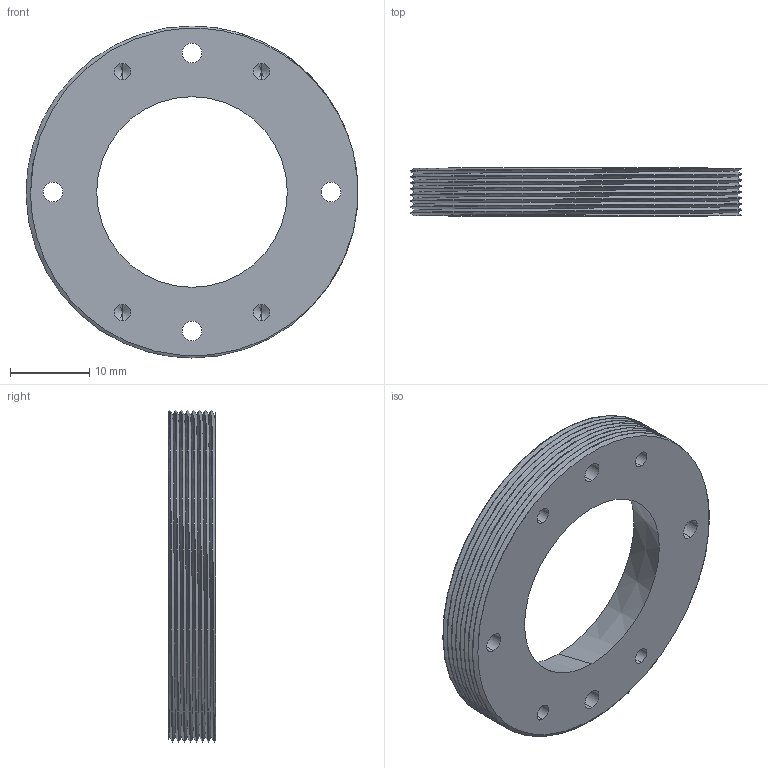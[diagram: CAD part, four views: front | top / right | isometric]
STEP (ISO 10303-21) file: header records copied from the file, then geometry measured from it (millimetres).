
FILE_DESCRIPTION (( 'STEP AP203' ), '1' );
FILE_NAME ('OPT_GRISM_0008_X.STEP', '2026-04-12T20:08:26', ( '' ), ( '' ), 'SwSTEP 2.0', 'SolidWorks 2014', '' );
FILE_SCHEMA (( 'CONFIG_CONTROL_DESIGN' ));
Length unit declared in the file: millimetre
Products named in the file (1): OPT_GRISM_0008_X
Bounding box: 41.79 x 6 x 41.8 mm (x, y, z)
Volume: 4778.4 mm3; surface area: 3892.3 mm2
Topology: 1 solids, 1 shells, 47 faces, 127 edges, 78 vertices
Faces by surface type: cylinder 33, cone 10, plane 2, bspline 2
Entity records: 2627 total; most frequent: CARTESIAN_POINT 1477, ORIENTED_EDGE 238, DIRECTION 210, EDGE_CURVE 119, AXIS2_PLACEMENT_3D 84, VERTEX_POINT 78, EDGE_LOOP 61, ADVANCED_FACE 47
